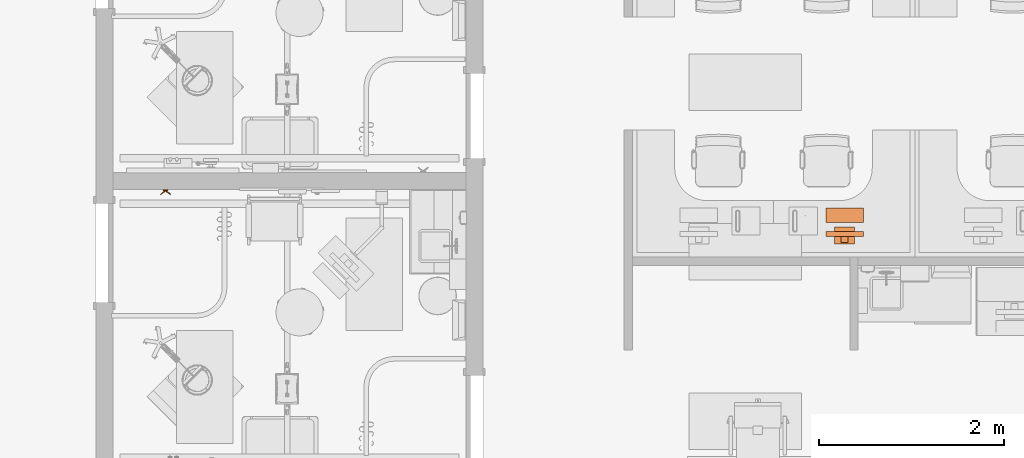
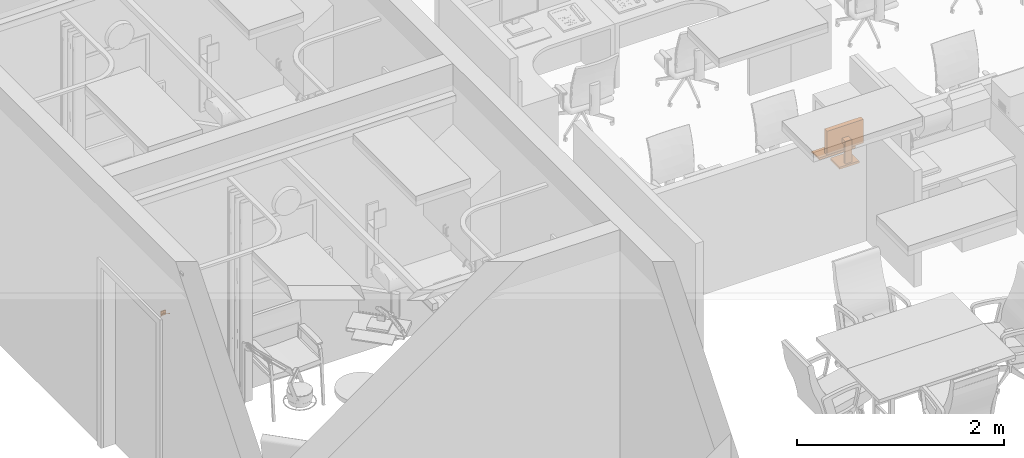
# One storey, part 122 of 142: 2 proxies.
"""IFC2X3 building model written with IfcOpenShell, lengths in feet."""

from ifc_helpers import new_model, entity, si_unit, converted_unit, derived_unit, direction, frame, frame_2d, origin, origin_2d_with_axis, place, context, subcontext, project, spatial, rectangle, circle, extrude, faceted_brep, source, transform, mapped, type_object, type_shapes, element, save


model = new_model("IFC2X3")

# Units and contexts
model_context = context("Model", 3, precision=0.0001, world=origin(), true_north=direction((6.12303176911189e-17, 1.0)))
body_context = subcontext(model_context, "Body", "Model", "MODEL_VIEW")
ifc_project = project(units=[converted_unit("LENGTHUNIT", "FOOT", entity("IfcRatioMeasure", 0.3048), si_unit("LENGTHUNIT", "METRE"), dimensions=[1, 0, 0, 0, 0, 0, 0]), converted_unit("AREAUNIT", "SQUARE FOOT", entity("IfcRatioMeasure", 0.09290304), si_unit("AREAUNIT", "SQUARE_METRE"), dimensions=[2, 0, 0, 0, 0, 0, 0]), converted_unit("VOLUMEUNIT", "CUBIC FOOT", entity("IfcRatioMeasure", 0.028316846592), si_unit("VOLUMEUNIT", "CUBIC_METRE"), dimensions=[3, 0, 0, 0, 0, 0, 0]), converted_unit("PLANEANGLEUNIT", "DEGREE", entity("IfcRatioMeasure", 0.0174532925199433), si_unit("PLANEANGLEUNIT", "RADIAN"), dimensions=[0, 0, 0, 0, 0, 0, 0]), si_unit("MASSUNIT", "GRAM", prefix="KILO"), derived_unit("MASSDENSITYUNIT", [(si_unit("MASSUNIT", "GRAM", prefix="KILO"), 1), (si_unit("LENGTHUNIT", "METRE"), -3)]), si_unit("TIMEUNIT", "SECOND"), si_unit("FREQUENCYUNIT", "HERTZ"), si_unit("THERMODYNAMICTEMPERATUREUNIT", "DEGREE_CELSIUS"), derived_unit("THERMALTRANSMITTANCEUNIT", [(si_unit("MASSUNIT", "GRAM", prefix="KILO"), 1), (si_unit("THERMODYNAMICTEMPERATUREUNIT", "KELVIN"), -1), (si_unit("TIMEUNIT", "SECOND"), -3)]), derived_unit("VOLUMETRICFLOWRATEUNIT", [(si_unit("LENGTHUNIT", "METRE"), 3), (si_unit("TIMEUNIT", "SECOND"), -1)]), si_unit("ELECTRICCURRENTUNIT", "AMPERE"), si_unit("ELECTRICVOLTAGEUNIT", "VOLT"), si_unit("POWERUNIT", "WATT"), si_unit("FORCEUNIT", "NEWTON"), si_unit("ILLUMINANCEUNIT", "LUX"), si_unit("LUMINOUSFLUXUNIT", "LUMEN"), si_unit("LUMINOUSINTENSITYUNIT", "CANDELA"), derived_unit("USERDEFINED", [(si_unit("MASSUNIT", "GRAM", prefix="KILO"), -1), (si_unit("LENGTHUNIT", "METRE"), -2), (si_unit("TIMEUNIT", "SECOND"), 3), (si_unit("LUMINOUSFLUXUNIT", "LUMEN"), 1)]), derived_unit("LINEARVELOCITYUNIT", [(si_unit("LENGTHUNIT", "METRE"), 1), (si_unit("TIMEUNIT", "SECOND"), -1)]), si_unit("PRESSUREUNIT", "PASCAL"), derived_unit("USERDEFINED", [(si_unit("LENGTHUNIT", "METRE"), -2), (si_unit("MASSUNIT", "GRAM", prefix="KILO"), 1), (si_unit("TIMEUNIT", "SECOND"), -2)])], contexts=[model_context])

# Site, building, storey, space
site_placement = place(None, origin())
site = spatial("IfcSite", under=ifc_project, at=site_placement, Name="Default", CompositionType="ELEMENT")
building_placement = place(site_placement, origin())
building = spatial("IfcBuilding", under=site, at=building_placement, Name="OUTPATIENT / PACT CLINIC (Ch. 265)", CompositionType="ELEMENT")
storey_placement = place(building_placement, origin())
storey = spatial("IfcBuildingStorey", under=building, at=storey_placement, Name="LEVEL 1", CompositionType="ELEMENT", Elevation=0.0)
space_1_placement = place(storey_placement, origin())
space_1 = spatial("IfcSpace", under=storey, at=space_1_placement, Name="WRTM1", CompositionType="ELEMENT", InteriorOrExteriorSpace="INTERNAL")

# Proxy
building_element_proxy_type_1 = type_object("IfcBuildingElementProxyType", Name="M1801 - Computer with Flat Panel Monitor", PredefinedType="NOTDEFINED")
shared_shape_1 = source(origin(), body_context, "Body", "Brep", [
    faceted_brep([(0.666666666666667, 0.5625, 0.0), (0.666666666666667, 0.5625, 0.0416666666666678), (0.666666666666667, 0.0624999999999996, 0.0833333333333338), (0.666666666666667, 0.0624999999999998, 0.0), (-0.666666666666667, 0.5625, 0.0), (-0.666666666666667, 0.0624999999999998, 0.0), (-0.666666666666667, 0.0624999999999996, 0.0833333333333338), (-0.666666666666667, 0.5625, 0.0416666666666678)], [[[0, 1, 2, 3]], [[4, 5, 6, 7]], [[3, 5, 4, 0]], [[2, 6, 5, 3]], [[1, 7, 6, 2]], [[0, 4, 7, 1]]]),
    faceted_brep([(0.666666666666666, -0.437223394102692, 1.41666666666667), (0.666666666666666, -0.271109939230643, 1.41666666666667), (-0.666666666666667, -0.271109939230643, 1.41666666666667), (-0.666666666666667, -0.437223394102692, 1.41666666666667), (0.666666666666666, -0.437223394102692, 0.500000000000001), (-0.666666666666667, -0.437223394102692, 0.500000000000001), (-0.666666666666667, -0.271109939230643, 0.500000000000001), (0.666666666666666, -0.271109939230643, 0.500000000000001), (-0.625, -0.271109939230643, 1.375), (-0.625, -0.271109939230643, 0.541666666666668), (0.625, -0.271109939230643, 0.541666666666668), (0.625, -0.271109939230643, 1.375), (0.625, -0.286812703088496, 1.375), (-0.625, -0.286812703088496, 1.375), (0.625, -0.286812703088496, 0.541666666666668), (-0.625, -0.286812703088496, 0.541666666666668)], [[[0, 1, 2, 3]], [[4, 5, 6, 7]], [[3, 5, 4, 0]], [[2, 6, 5, 3]], [[8, 9, 10, 11], [1, 7, 6, 2]], [[0, 4, 7, 1]], [[12, 13, 8, 11]], [[14, 10, 9, 15]], [[12, 14, 15, 13]], [[13, 15, 9, 8]], [[11, 10, 14, 12]]], outer=[[True], [True], [True], [True], [False, True], [True], [True], [True], [True], [True], [True]]),
    faceted_brep([(0.358011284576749, -0.111770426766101, 0.0833333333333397), (0.358011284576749, -0.708333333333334, 0.0833333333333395), (0.358011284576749, -0.708333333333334, 0.0), (0.358011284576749, -0.111770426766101, 0.0), (-0.358011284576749, -0.708333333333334, 0.0833333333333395), (-0.358011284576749, -0.111770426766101, 0.0833333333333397), (-0.358011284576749, -0.111770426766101, 0.0), (-0.358011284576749, -0.708333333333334, 0.0), (0.12128795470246, -0.645556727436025, 0.104166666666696), (-0.12128795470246, -0.645556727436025, 0.104166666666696), (-0.12128795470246, -0.645556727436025, 0.0833333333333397), (0.12128795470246, -0.645556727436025, 0.0833333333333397), (0.12128795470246, -0.645556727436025, 0.958333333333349), (-0.12128795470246, -0.645556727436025, 0.958333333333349), (0.12128795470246, -0.437223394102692, 0.958333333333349), (-0.12128795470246, -0.437223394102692, 0.958333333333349), (0.12128795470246, -0.437223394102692, 0.791666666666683), (-0.12128795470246, -0.437223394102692, 0.791666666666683), (0.12128795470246, -0.562223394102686, 0.791666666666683), (-0.12128795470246, -0.562223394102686, 0.791666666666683), (0.12128795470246, -0.562223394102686, 0.0833333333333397), (-0.12128795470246, -0.562223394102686, 0.0833333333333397)], [[[0, 1, 2, 3]], [[4, 5, 6, 7]], [[8, 9, 10, 11]], [[12, 13, 9, 8]], [[14, 15, 13, 12]], [[16, 17, 15, 14]], [[18, 19, 17, 16]], [[20, 21, 19, 18]], [[11, 10, 21, 20], [0, 5, 4, 1]], [[3, 6, 5, 0]], [[2, 7, 6, 3]], [[1, 4, 7, 2]], [[20, 18, 16, 14, 12, 8, 11]], [[10, 9, 13, 15, 17, 19, 21]]], outer=[[True], [True], [True], [True], [True], [True], [True], [True], [False, True], [True], [True], [True], [True], [True]]),
])
type_shapes(building_element_proxy_type_1, [shared_shape_1])
proxy_1_placement = place(space_1_placement, frame((416.878564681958, -888.24701739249, 2.49999999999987)))
element("IfcBuildingElementProxy", 1, at=proxy_1_placement, inside=space_1, type_object=building_element_proxy_type_1, Name="M1801 - Computer with Flat Panel Monitor:M1801 - Computer with Flat Panel Monitor", ObjectType="M1801 - Computer with Flat Panel Monitor", context=body_context, shape_type="MappedRepresentation", body=[
    mapped(shared_shape_1, transform((0.0, 0.0, 0.0), scale=1.0)),
])

# Space
space_2_placement = place(storey_placement, origin())
space_2 = spatial("IfcSpace", under=storey, at=space_2_placement, Name="EXPA01", CompositionType="ELEMENT", InteriorOrExteriorSpace="INTERNAL")

# Proxy
building_element_proxy_type_2 = type_object("IfcBuildingElementProxyType", Name="A5145 - Hook, Garment, Double", PredefinedType="NOTDEFINED")
shared_shape_2 = source(origin(), body_context, "Body", "SweptSolid", [
    extrude(circle(Radius=0.0105952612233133, at=frame_2d((-1.64551454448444e-31, -4.16333634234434e-17), x_axis=(1.0, 0.0))), frame((-0.169086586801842, -0.168481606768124, 0.0833333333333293), z_axis=(0.799999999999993, 0.60000000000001, 0.0), x_axis=(0.60000000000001, -0.799999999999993, 0.0)), (0.0, 0.0, 1.0), 0.211358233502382),
    extrude(circle(Radius=0.0105952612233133, at=frame_2d((5.2041704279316e-19, 2.77555756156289e-17), x_axis=(1.0, 0.0))), frame((0.0, -0.0416666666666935, 0.083333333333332), z_axis=(0.799999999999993, -0.60000000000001, 0.0), x_axis=(-0.60000000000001, -0.799999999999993, 0.0)), (0.0, 0.0, 1.0), 0.211358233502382),
    extrude(rectangle(XDim=0.0416666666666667, YDim=0.166666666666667, at=origin_2d_with_axis()), frame((0.0, -0.0208333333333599, 0.0), z_axis=(0.0, 0.0, 1.0), x_axis=(0.0, 1.0, 0.0)), (0.0, 0.0, 1.0), 0.166666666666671),
])
type_shapes(building_element_proxy_type_2, [shared_shape_2])
proxy_2_placement = place(space_2_placement, frame((392.827893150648, -887.024686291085, 4.0)))
element("IfcBuildingElementProxy", 2, at=proxy_2_placement, inside=space_2, type_object=building_element_proxy_type_2, Name="A5145 - Hook, Garment, Double:A5145 - Hook, Garment, Double", ObjectType="A5145 - Hook, Garment, Double", context=body_context, shape_type="MappedRepresentation", body=[
    mapped(shared_shape_2, transform((0.0, 0.0, 0.0), scale=1.0)),
])

save(model, "model.ifc")
